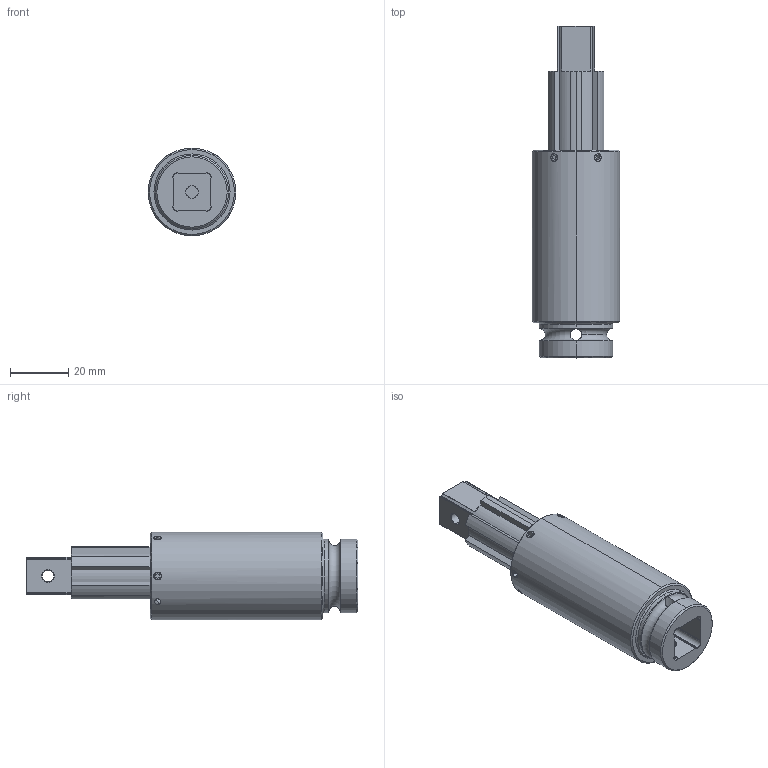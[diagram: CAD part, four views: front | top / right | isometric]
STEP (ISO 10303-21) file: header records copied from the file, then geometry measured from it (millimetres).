
FILE_DESCRIPTION (( 'STEP AP203' ), '1' );
FILE_NAME ('Compensatore Kolver 1-2_1-2 Cod 800319.STEP', '2016-04-27T06:50:48', ( '' ), ( '' ), 'SwSTEP 2.0', 'SolidWorks 2015', '' );
FILE_SCHEMA (( 'CONFIG_CONTROL_DESIGN' ));
Length unit declared in the file: millimetre
Products named in the file (1): Compensatore Kolver 1-2_1-2 Cod 800319
Bounding box: 30 x 113.5 x 30 mm (x, y, z)
Surface area: 14165.1 mm2 (no closed solid volume)
Topology: 0 solids, 89 shells, 240 faces, 826 edges, 647 vertices
Faces by surface type: cylinder 100, plane 74, torus 32, cone 14, sphere 10, bspline 10
Entity records: 10585 total; most frequent: CARTESIAN_POINT 3682, DIRECTION 1459, ORIENTED_EDGE 1164, EDGE_CURVE 818, VERTEX_POINT 647, AXIS2_PLACEMENT_3D 528, VECTOR 403, LINE 403
